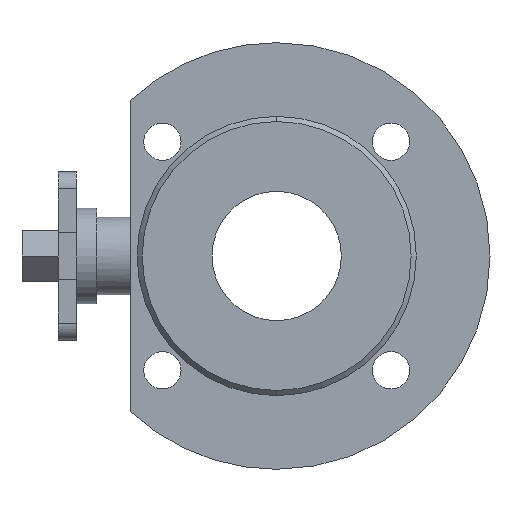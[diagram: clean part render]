
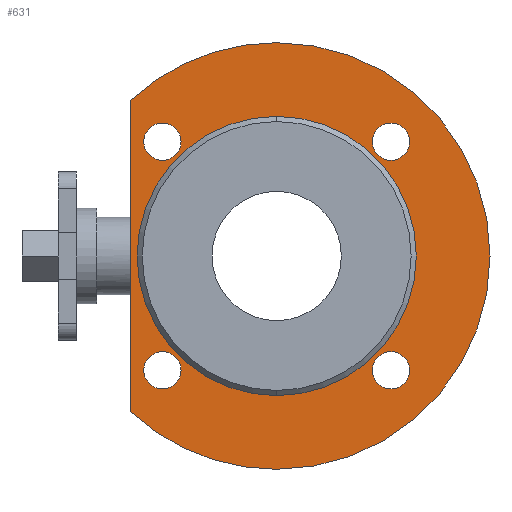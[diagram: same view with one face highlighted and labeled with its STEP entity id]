
A CAD part, left-side view. The second image highlights one B-rep face of the part: STEP entity #631.
In plain terms, the highlighted planar face has unit normal (-1, 0, 0).
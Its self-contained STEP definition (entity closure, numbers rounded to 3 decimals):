
#20 = CIRCLE ( 'NONE', #944, 7.2 ) ;
#30 = AXIS2_PLACEMENT_3D ( 'NONE', #2026, #662, #2248 ) ;
#34 = CARTESIAN_POINT ( 'NONE',  ( -37., 44.194, 44.194 ) ) ;
#43 = ORIENTED_EDGE ( 'NONE', *, *, #1992, .T. ) ;
#44 = CIRCLE ( 'NONE', #974, 7.2 ) ;
#63 = CARTESIAN_POINT ( 'NONE',  ( -37., 0., -82.5 ) ) ;
#98 = LINE ( 'NONE', #182, #1368 ) ;
#144 = ORIENTED_EDGE ( 'NONE', *, *, #1408, .F. ) ;
#164 = CIRCLE ( 'NONE', #1111, 82.5 ) ;
#169 = CARTESIAN_POINT ( 'NONE',  ( -37., -44.194, 36.994 ) ) ;
#182 = CARTESIAN_POINT ( 'NONE',  ( -37., 56.5, 0. ) ) ;
#209 = DIRECTION ( 'NONE',  ( 0., 0., 1. ) ) ;
#230 = VERTEX_POINT ( 'NONE', #948 ) ;
#232 = EDGE_CURVE ( 'NONE', #2647, #2826, #164, .T. ) ;
#253 = VERTEX_POINT ( 'NONE', #1873 ) ;
#259 = CIRCLE ( 'NONE', #30, 54. ) ;
#261 = DIRECTION ( 'NONE',  ( 0., 0., 1. ) ) ;
#271 = VERTEX_POINT ( 'NONE', #1155 ) ;
#289 = EDGE_LOOP ( 'NONE', ( #1821, #2780 ) ) ;
#326 = DIRECTION ( 'NONE',  ( -1., 0., 0. ) ) ;
#337 = AXIS2_PLACEMENT_3D ( 'NONE', #1826, #414, #2036 ) ;
#380 = CIRCLE ( 'NONE', #2363, 7.2 ) ;
#414 = DIRECTION ( 'NONE',  ( -1., 0., 0. ) ) ;
#422 = CARTESIAN_POINT ( 'NONE',  ( -37., 44.194, -44.194 ) ) ;
#445 = ORIENTED_EDGE ( 'NONE', *, *, #2850, .F. ) ;
#493 = CARTESIAN_POINT ( 'NONE',  ( -37., 44.194, -51.394 ) ) ;
#515 = ORIENTED_EDGE ( 'NONE', *, *, #2348, .T. ) ;
#553 = EDGE_CURVE ( 'NONE', #253, #1810, #2893, .T. ) ;
#590 = CARTESIAN_POINT ( 'NONE',  ( -37., 0., 82.5 ) ) ;
#607 = ORIENTED_EDGE ( 'NONE', *, *, #2428, .F. ) ;
#608 = CIRCLE ( 'NONE', #1990, 7.2 ) ;
#631 = ADVANCED_FACE ( 'NONE', ( #912, #2546, #1476, #2048, #844, #1986 ), #716, .F. ) ;
#640 = CIRCLE ( 'NONE', #2470, 7.2 ) ;
#662 = DIRECTION ( 'NONE',  ( -1., 0., 0. ) ) ;
#673 = DIRECTION ( 'NONE',  ( 0., 1., 0. ) ) ;
#677 = EDGE_LOOP ( 'NONE', ( #707, #1577 ) ) ;
#707 = ORIENTED_EDGE ( 'NONE', *, *, #1889, .F. ) ;
#716 = PLANE ( 'NONE',  #2851 ) ;
#723 = CARTESIAN_POINT ( 'NONE',  ( -37., 0., 0. ) ) ;
#751 = EDGE_CURVE ( 'NONE', #1905, #2000, #950, .T. ) ;
#757 = CARTESIAN_POINT ( 'NONE',  ( -37., 56.5, -60.117 ) ) ;
#774 = DIRECTION ( 'NONE',  ( -1., 0., 0. ) ) ;
#812 = EDGE_CURVE ( 'NONE', #2703, #2587, #98, .T. ) ;
#815 = DIRECTION ( 'NONE',  ( -1., 0., 0. ) ) ;
#835 = DIRECTION ( 'NONE',  ( -1., 0., 0. ) ) ;
#844 = FACE_BOUND ( 'NONE', #677, .T. ) ;
#912 = FACE_BOUND ( 'NONE', #2115, .T. ) ;
#944 = AXIS2_PLACEMENT_3D ( 'NONE', #1016, #2565, #1272 ) ;
#948 = CARTESIAN_POINT ( 'NONE',  ( -37., 44.194, 36.994 ) ) ;
#950 = CIRCLE ( 'NONE', #1344, 7.2 ) ;
#953 = CARTESIAN_POINT ( 'NONE',  ( -37., 82.5, 0. ) ) ;
#958 = DIRECTION ( 'NONE',  ( 0., 0., 1. ) ) ;
#974 = AXIS2_PLACEMENT_3D ( 'NONE', #2924, #1631, #209 ) ;
#986 = CARTESIAN_POINT ( 'NONE',  ( -37., -44.194, -51.394 ) ) ;
#1016 = CARTESIAN_POINT ( 'NONE',  ( -37., -44.194, -44.194 ) ) ;
#1111 = AXIS2_PLACEMENT_3D ( 'NONE', #723, #2306, #958 ) ;
#1133 = VERTEX_POINT ( 'NONE', #2510 ) ;
#1143 = VERTEX_POINT ( 'NONE', #1206 ) ;
#1155 = CARTESIAN_POINT ( 'NONE',  ( -37., 44.194, 51.394 ) ) ;
#1191 = DIRECTION ( 'NONE',  ( -1., 0., 0. ) ) ;
#1200 = DIRECTION ( 'NONE',  ( 0., 0., -1. ) ) ;
#1206 = CARTESIAN_POINT ( 'NONE',  ( -37., 0., -54. ) ) ;
#1272 = DIRECTION ( 'NONE',  ( 0., 0., -1. ) ) ;
#1277 = CARTESIAN_POINT ( 'NONE',  ( -37., 56.5, 60.117 ) ) ;
#1313 = EDGE_CURVE ( 'NONE', #2000, #1905, #380, .T. ) ;
#1344 = AXIS2_PLACEMENT_3D ( 'NONE', #2166, #815, #2383 ) ;
#1368 = VECTOR ( 'NONE', #1827, 1000. ) ;
#1377 = DIRECTION ( 'NONE',  ( -1., 0., 0. ) ) ;
#1408 = EDGE_CURVE ( 'NONE', #2530, #2288, #20, .T. ) ;
#1424 = CIRCLE ( 'NONE', #2332, 82.5 ) ;
#1456 = CARTESIAN_POINT ( 'NONE',  ( -37., -44.194, -36.994 ) ) ;
#1460 = CIRCLE ( 'NONE', #337, 82.5 ) ;
#1476 = FACE_BOUND ( 'NONE', #2084, .T. ) ;
#1577 = ORIENTED_EDGE ( 'NONE', *, *, #1963, .F. ) ;
#1610 = ORIENTED_EDGE ( 'NONE', *, *, #751, .F. ) ;
#1631 = DIRECTION ( 'NONE',  ( -1., 0., 0. ) ) ;
#1684 = DIRECTION ( 'NONE',  ( -1., 0., 0. ) ) ;
#1742 = CARTESIAN_POINT ( 'NONE',  ( -37., 0., 0. ) ) ;
#1743 = CIRCLE ( 'NONE', #2092, 7.2 ) ;
#1804 = EDGE_CURVE ( 'NONE', #230, #271, #1743, .T. ) ;
#1810 = VERTEX_POINT ( 'NONE', #493 ) ;
#1821 = ORIENTED_EDGE ( 'NONE', *, *, #2077, .F. ) ;
#1826 = CARTESIAN_POINT ( 'NONE',  ( -37., 0., 0. ) ) ;
#1827 = DIRECTION ( 'NONE',  ( 0., 0., -1. ) ) ;
#1865 = DIRECTION ( 'NONE',  ( 1., 0., 0. ) ) ;
#1873 = CARTESIAN_POINT ( 'NONE',  ( -37., 44.194, -36.994 ) ) ;
#1889 = EDGE_CURVE ( 'NONE', #1143, #1133, #2241, .T. ) ;
#1905 = VERTEX_POINT ( 'NONE', #2595 ) ;
#1961 = DIRECTION ( 'NONE',  ( 0., 0., 1. ) ) ;
#1963 = EDGE_CURVE ( 'NONE', #1133, #1143, #259, .T. ) ;
#1986 = FACE_OUTER_BOUND ( 'NONE', #2752, .T. ) ;
#1990 = AXIS2_PLACEMENT_3D ( 'NONE', #2187, #835, #2405 ) ;
#1992 = EDGE_CURVE ( 'NONE', #2587, #2647, #1460, .T. ) ;
#2000 = VERTEX_POINT ( 'NONE', #169 ) ;
#2026 = CARTESIAN_POINT ( 'NONE',  ( -37., 0., 0. ) ) ;
#2036 = DIRECTION ( 'NONE',  ( 0., 0., 1. ) ) ;
#2041 = DIRECTION ( 'NONE',  ( -1., 0., 0. ) ) ;
#2048 = FACE_BOUND ( 'NONE', #289, .T. ) ;
#2077 = EDGE_CURVE ( 'NONE', #271, #230, #44, .T. ) ;
#2084 = EDGE_LOOP ( 'NONE', ( #2278, #445 ) ) ;
#2092 = AXIS2_PLACEMENT_3D ( 'NONE', #34, #1684, #261 ) ;
#2115 = EDGE_LOOP ( 'NONE', ( #1610, #2926 ) ) ;
#2132 = CARTESIAN_POINT ( 'NONE',  ( -37., 0., 0. ) ) ;
#2166 = CARTESIAN_POINT ( 'NONE',  ( -37., -44.194, 44.194 ) ) ;
#2187 = CARTESIAN_POINT ( 'NONE',  ( -37., 44.194, -44.194 ) ) ;
#2241 = CIRCLE ( 'NONE', #2652, 54. ) ;
#2248 = DIRECTION ( 'NONE',  ( 0., 0., 1. ) ) ;
#2278 = ORIENTED_EDGE ( 'NONE', *, *, #553, .F. ) ;
#2288 = VERTEX_POINT ( 'NONE', #986 ) ;
#2306 = DIRECTION ( 'NONE',  ( -1., 0., 0. ) ) ;
#2332 = AXIS2_PLACEMENT_3D ( 'NONE', #2132, #774, #2351 ) ;
#2348 = EDGE_CURVE ( 'NONE', #2826, #2703, #1424, .T. ) ;
#2351 = DIRECTION ( 'NONE',  ( 0., 0., 1. ) ) ;
#2363 = AXIS2_PLACEMENT_3D ( 'NONE', #2654, #1377, #2887 ) ;
#2383 = DIRECTION ( 'NONE',  ( 0., -1., 0. ) ) ;
#2405 = DIRECTION ( 'NONE',  ( 0., 1., 0. ) ) ;
#2428 = EDGE_CURVE ( 'NONE', #2288, #2530, #640, .T. ) ;
#2455 = ORIENTED_EDGE ( 'NONE', *, *, #232, .T. ) ;
#2470 = AXIS2_PLACEMENT_3D ( 'NONE', #2499, #1191, #2708 ) ;
#2499 = CARTESIAN_POINT ( 'NONE',  ( -37., -44.194, -44.194 ) ) ;
#2504 = EDGE_LOOP ( 'NONE', ( #144, #607 ) ) ;
#2510 = CARTESIAN_POINT ( 'NONE',  ( -37., 0., 54. ) ) ;
#2527 = AXIS2_PLACEMENT_3D ( 'NONE', #422, #2041, #673 ) ;
#2530 = VERTEX_POINT ( 'NONE', #1456 ) ;
#2546 = FACE_BOUND ( 'NONE', #2504, .T. ) ;
#2565 = DIRECTION ( 'NONE',  ( -1., 0., 0. ) ) ;
#2587 = VERTEX_POINT ( 'NONE', #757 ) ;
#2595 = CARTESIAN_POINT ( 'NONE',  ( -37., -44.194, 51.394 ) ) ;
#2647 = VERTEX_POINT ( 'NONE', #63 ) ;
#2652 = AXIS2_PLACEMENT_3D ( 'NONE', #1742, #326, #1961 ) ;
#2654 = CARTESIAN_POINT ( 'NONE',  ( -37., -44.194, 44.194 ) ) ;
#2703 = VERTEX_POINT ( 'NONE', #1277 ) ;
#2708 = DIRECTION ( 'NONE',  ( 0., 0., -1. ) ) ;
#2752 = EDGE_LOOP ( 'NONE', ( #43, #2455, #515, #2932 ) ) ;
#2780 = ORIENTED_EDGE ( 'NONE', *, *, #1804, .F. ) ;
#2826 = VERTEX_POINT ( 'NONE', #590 ) ;
#2850 = EDGE_CURVE ( 'NONE', #1810, #253, #608, .T. ) ;
#2851 = AXIS2_PLACEMENT_3D ( 'NONE', #953, #1865, #1200 ) ;
#2887 = DIRECTION ( 'NONE',  ( 0., -1., 0. ) ) ;
#2893 = CIRCLE ( 'NONE', #2527, 7.2 ) ;
#2924 = CARTESIAN_POINT ( 'NONE',  ( -37., 44.194, 44.194 ) ) ;
#2926 = ORIENTED_EDGE ( 'NONE', *, *, #1313, .F. ) ;
#2932 = ORIENTED_EDGE ( 'NONE', *, *, #812, .T. ) ;
